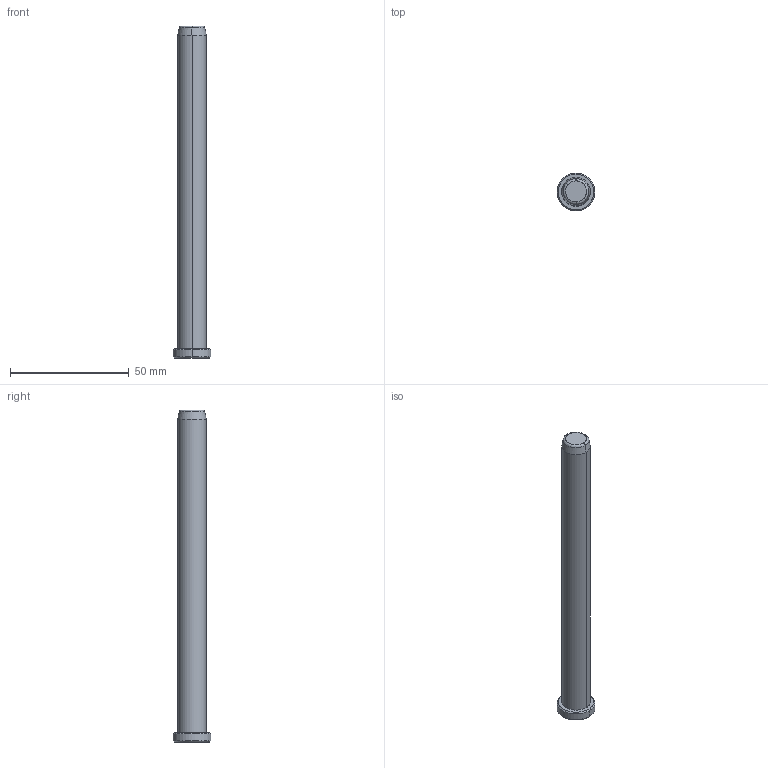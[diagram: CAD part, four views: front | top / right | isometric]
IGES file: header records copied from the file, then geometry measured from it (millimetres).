
Start section: START RECORD GO HERE.
Global section: file name: B81812140.igs; native system: DASSAULT SYSTEMES CATIA V5 R20 - www.3ds.com; preprocessor: CATIA Version 5 Release 20 ; author: Utente; organization: NB04-ASUS; date: 20200419.172411; units: millimetre
Bounding box: 16 x 16 x 140 mm (x, y, z)
Surface area: 5658.7 mm2 (no closed solid volume)
Topology: 0 solids, 0 shells, 17 faces, 68 edges, 68 vertices
Faces by surface type: revolution 14, plane 3
